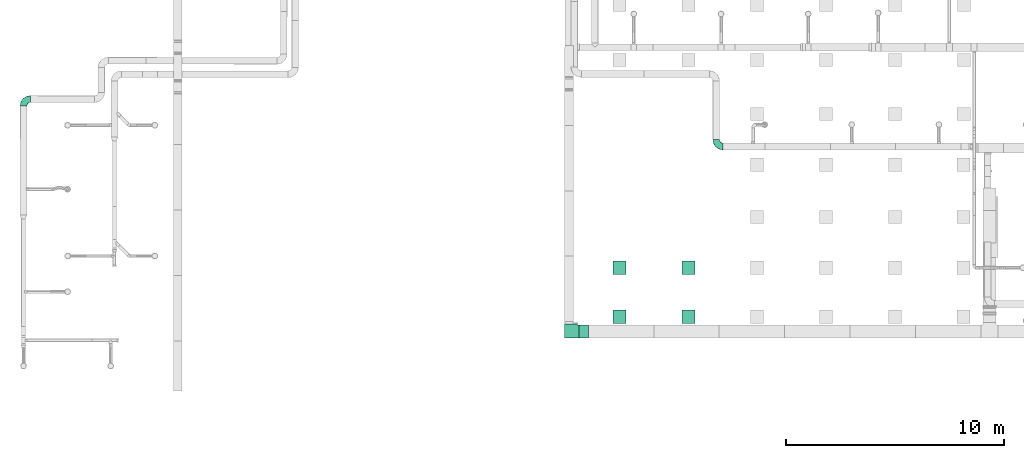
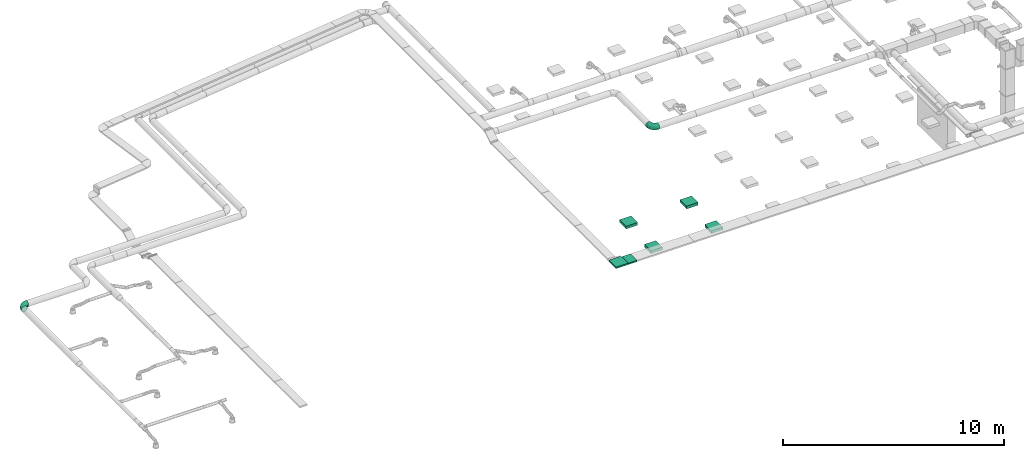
# One storey, part 11 of 119: 6 distribution elements, 2 flow fittings.
"""IFC2X3 building model written with IfcOpenShell, lengths in metres."""

from ifc_helpers import new_model, si_unit, direction, frame, frame_2d, origin, place, context, subcontext, project, spatial, rectangle, extrude, open_shell, surface_model, source, transform, mapped, element, save


model = new_model("IFC2X3")

# Units and contexts
model_context = context("Model", 3, precision=1e-05, world=origin(), true_north=direction((-0.4480736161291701, 0.8939966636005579)))
body_context = subcontext(model_context, "Body", "Model", "MODEL_VIEW")
ifc_project = project(units=[si_unit("LENGTHUNIT", "METRE"), si_unit("AREAUNIT", "SQUARE_METRE"), si_unit("VOLUMEUNIT", "CUBIC_METRE"), si_unit("PLANEANGLEUNIT", "RADIAN"), si_unit("THERMODYNAMICTEMPERATUREUNIT", "KELVIN"), si_unit("MASSUNIT", "GRAM", prefix="KILO"), si_unit("TIMEUNIT", "SECOND")], contexts=[model_context])

# Site, building, storey
site_placement = place(None, origin())
site = spatial("IfcSite", under=ifc_project, at=site_placement, Name="Site 1", CompositionType="ELEMENT")
building_placement = place(site_placement, origin())
building = spatial("IfcBuilding", under=site, at=building_placement, Name="Undefined", CompositionType="ELEMENT")
storey_placement = place(building_placement, frame((0.0, 0.0, 5.4)))
storey = spatial("IfcBuildingStorey", under=building, at=storey_placement, Name="R+1", CompositionType="ELEMENT", Elevation=5.4)

# Flow fittings
shared_shape_1 = source(origin(), body_context, "Body", "SurfaceModel", [
    surface_model("IfcFaceBasedSurfaceModel", [(0.12334725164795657, 0.0, -1.110223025e-15), (0.12264675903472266, 0.04110978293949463, -7.77156117e-16), (0.0007004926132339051, 0.041109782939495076, -7.77156117e-16), (0.0, 0.0, 0.0), (-0.1170905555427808, 0.04519480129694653, -0.031296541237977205), (-0.11914429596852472, 0.004131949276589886, -0.0316560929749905), (-0.22269912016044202, 0.05308645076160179, -0.0917568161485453), (-0.2259661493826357, 0.01211426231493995, -0.09281096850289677), (-0.3089281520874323, 0.06424692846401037, -0.1772605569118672), (-0.313185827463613, 0.023402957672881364, -0.17929702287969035), (-0.3699012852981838, 0.07791566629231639, -0.2819808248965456), (-0.3748594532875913, 0.03722872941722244, -0.285220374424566), (-0.4014633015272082, 0.09316116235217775, -0.39878110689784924), (-0.4067840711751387, 0.05264937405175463, -0.40336252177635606), (0.12059301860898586, 0.08079531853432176, -0.01055203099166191), (0.0027542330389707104, 0.08079531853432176, -0.01055203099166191), (-0.11106929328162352, 0.08474274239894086, -0.04079441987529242), (-0.21312067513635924, 0.09236857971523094, -0.09921822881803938), (-0.2964452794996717, 0.1031531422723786, -0.18184197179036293), (-0.3553646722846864, 0.11636147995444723, -0.2830349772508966), (-0.38586359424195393, 0.131093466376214, -0.39590110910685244), (0.11732598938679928, 0.11635210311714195, -0.03093698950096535), (0.006021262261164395, 0.1163521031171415, -0.030936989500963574), (-0.10149084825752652, 0.12008064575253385, -0.05950246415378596), (-0.19788356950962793, 0.12728363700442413, -0.11468672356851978), (-0.2765878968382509, 0.13747020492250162, -0.19272905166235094), (-0.3322402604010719, 0.14994615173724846, -0.28831099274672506), (-0.36104804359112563, 0.16386126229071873, -0.3949187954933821), (0.11306831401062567, 0.14535700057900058, -0.05976567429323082), (0.010278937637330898, 0.14535700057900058, -0.05976567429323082), (-0.08900797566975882, 0.14880029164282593, -0.08614575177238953), (-0.17802618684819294, 0.15545221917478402, -0.13710814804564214), (-0.25070925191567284, 0.16485946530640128, -0.2091798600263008), (-0.3021039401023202, 0.1763809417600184, -0.29744931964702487), (-0.32870778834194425, 0.189231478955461, -0.395901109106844), (0.10811014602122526, 0.16583337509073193, -0.09507345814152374), (0.015237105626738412, 0.16583337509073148, -0.09507345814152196), (-0.07447136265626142, 0.16894448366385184, -0.1189085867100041), (-0.15490177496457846, 0.17495468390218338, -0.16495451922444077), (-0.22057293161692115, 0.1834543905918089, -0.230073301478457), (-0.26700945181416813, 0.1938643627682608, -0.3098271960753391), (-0.2910467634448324, 0.20547517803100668, -0.3987811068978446), (0.10278937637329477, 0.17638579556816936, -0.13445417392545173), (0.020557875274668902, 0.17638579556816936, -0.1344541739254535), (-0.05887165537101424, 0.17914042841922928, -0.15555823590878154), (-0.13008622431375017, 0.18446197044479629, -0.1963281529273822), (-0.18823267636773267, 0.19198776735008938, -0.2539855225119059), (-0.22934842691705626, 0.20120494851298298, -0.324601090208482), (-0.2506315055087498, 0.21148537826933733, -0.40336252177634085), (0.09746860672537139, 0.17629513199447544, -0.17522409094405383), (0.025878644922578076, 0.17629513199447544, -0.17522409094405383), (-0.043271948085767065, 0.17869328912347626, -0.19359708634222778), (-0.10527067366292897, 0.18332617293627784, -0.22909098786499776), (-0.1558924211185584, 0.1898780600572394, -0.2792869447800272), (-0.1916874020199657, 0.19790245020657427, -0.3407641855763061), (-0.21021624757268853, 0.20685249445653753, -0.40933313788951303), (0.09251043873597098, 0.1655675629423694, -0.2146048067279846), (0.030836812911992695, 0.1655675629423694, -0.21460480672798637), (-0.028735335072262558, 0.1676335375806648, -0.2304328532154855), (-0.0821462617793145, 0.17162469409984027, -0.261010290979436), (-0.1257561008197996, 0.1772690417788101, -0.3042533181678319), (-0.1565929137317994, 0.18418192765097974, -0.35721499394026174), (-0.17255522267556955, 0.1918922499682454, -0.4162860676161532), (0.08825276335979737, 0.14493415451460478, -0.24991259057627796), (0.0350944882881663, 0.14493415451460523, -0.2499125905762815), (-0.01625246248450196, 0.1467148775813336, -0.2635552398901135), (-0.06228887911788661, 0.15015497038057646, -0.28991081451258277), (-0.09987745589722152, 0.15501999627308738, -0.32718322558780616), (-0.1264565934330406, 0.16097841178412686, -0.3728324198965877), (-0.14021496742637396, 0.16762416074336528, -0.4237474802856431), (0.08498573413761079, 0.11580103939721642, -0.27874127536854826), (0.03836151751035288, 0.11580103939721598, -0.2787412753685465), (-0.0066740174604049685, 0.11736288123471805, -0.2907070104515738), (-0.0470517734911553, 0.12038012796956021, -0.3138230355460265), (-0.08002007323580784, 0.12464715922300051, -0.34651403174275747), (-0.10333218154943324, 0.1298731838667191, -0.3865521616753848), (-0.11539941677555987, 0.13570205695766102, -0.43120889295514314), (0.08293199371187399, 0.08015359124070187, -0.2991262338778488), (0.04041525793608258, 0.08015359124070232, -0.2991262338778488), (-0.0006527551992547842, 0.08157783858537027, -0.31003781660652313), (-0.037473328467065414, 0.08432927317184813, -0.3311173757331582), (-0.06753720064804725, 0.08822038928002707, -0.36092837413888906), (-0.08879556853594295, 0.09298601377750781, -0.3974392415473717), (-0.0997997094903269, 0.09830137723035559, -0.438161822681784), (0.08223150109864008, 0.040421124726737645, -0.30967826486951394), (0.0411157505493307, 0.040421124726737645, -0.30967826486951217), (0.001400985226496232, 0.04179844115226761, -0.32023029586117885), (-0.03420629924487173, 0.044459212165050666, -0.34061525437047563), (-0.06327952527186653, 0.04822211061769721, -0.3694439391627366), (-0.08383740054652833, 0.052830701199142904, -0.4047517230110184), (-0.0944789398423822, 0.057970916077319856, -0.44413243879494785), (0.08293199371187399, -0.0006886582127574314, -0.3096782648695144), (0.04041525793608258, -0.0006886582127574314, -0.3096782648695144), (-0.0006527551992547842, 0.0007355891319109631, -0.3205898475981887), (-0.037473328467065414, 0.0034870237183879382, -0.34166940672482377), (-0.06753720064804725, 0.00737813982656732, -0.37148040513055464), (-0.08879556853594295, 0.012143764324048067, -0.4079912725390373), (-0.0997997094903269, 0.017459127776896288, -0.44871385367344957), (0.08498573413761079, -0.040374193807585, -0.29912623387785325), (0.03836151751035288, -0.040374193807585, -0.2991262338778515), (-0.0066740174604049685, -0.03881235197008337, -0.3110919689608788), (-0.0470517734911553, -0.03579510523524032, -0.33420799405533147), (-0.08002007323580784, -0.031528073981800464, -0.36689899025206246), (-0.10333218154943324, -0.02630204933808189, -0.4069371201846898), (-0.11539941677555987, -0.020473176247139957, -0.45159385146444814), (0.08825276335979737, -0.07593097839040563, -0.2787412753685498), (0.0350944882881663, -0.07593097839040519, -0.27874127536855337), (-0.01625246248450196, -0.0741502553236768, -0.29238392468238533), (-0.06228887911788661, -0.07071016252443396, -0.3187394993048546), (-0.09987745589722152, -0.06584513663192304, -0.356011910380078), (-0.1264565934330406, -0.05988672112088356, -0.40166110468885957), (-0.14021496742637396, -0.05324097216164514, -0.4525761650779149), (0.09251043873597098, -0.10493587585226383, -0.2499125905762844), (0.030836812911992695, -0.10493587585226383, -0.24991259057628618), (-0.028735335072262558, -0.10286990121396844, -0.2657406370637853), (-0.0821462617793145, -0.09887874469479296, -0.2963180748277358), (-0.1257561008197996, -0.09323439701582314, -0.3395611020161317), (-0.1565929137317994, -0.0863215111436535, -0.39252277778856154), (-0.17255522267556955, -0.07861118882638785, -0.451593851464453), (0.09746860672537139, -0.12541225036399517, -0.21460480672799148), (0.025878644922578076, -0.12541225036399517, -0.21460480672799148), (-0.043271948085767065, -0.12301409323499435, -0.23297780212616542), (-0.10527067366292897, -0.11838120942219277, -0.2684717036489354), (-0.1558924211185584, -0.11182932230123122, -0.31866766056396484), (-0.1916874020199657, -0.10380493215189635, -0.38014490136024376), (-0.21021624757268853, -0.09485488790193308, -0.4487138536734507), (0.10278937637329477, -0.13596467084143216, -0.1752240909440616), (0.020557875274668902, -0.13596467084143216, -0.17522409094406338), (-0.05887165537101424, -0.1332100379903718, -0.19632815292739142), (-0.13008622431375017, -0.12788849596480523, -0.23709806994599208), (-0.18823267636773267, -0.12036269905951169, -0.2947554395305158), (-0.22934842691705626, -0.11114551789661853, -0.36537100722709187), (-0.2506315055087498, -0.10086508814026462, -0.44413243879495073), (0.10811014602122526, -0.13587400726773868, -0.13445417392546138), (0.015237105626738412, -0.13587400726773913, -0.1344541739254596), (-0.07447136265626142, -0.13276289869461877, -0.15828930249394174), (-0.15490177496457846, -0.12675269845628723, -0.2043352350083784), (-0.22057293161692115, -0.11825299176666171, -0.26945401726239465), (-0.26700945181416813, -0.10784301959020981, -0.34920791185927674), (-0.2910467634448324, -0.09623220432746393, -0.4381618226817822), (0.11306831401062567, -0.12514643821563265, -0.09507345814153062), (0.010278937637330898, -0.12514643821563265, -0.09507345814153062), (-0.08900797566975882, -0.1217031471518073, -0.12145353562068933), (-0.17802618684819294, -0.11505121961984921, -0.17241593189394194), (-0.25070925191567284, -0.10564397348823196, -0.2444876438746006), (-0.3021039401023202, -0.09412249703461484, -0.33275710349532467), (-0.32870778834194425, -0.08127195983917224, -0.4312088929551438), (0.11732598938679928, -0.10451302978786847, -0.05976567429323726), (0.006021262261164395, -0.10451302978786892, -0.05976567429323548), (-0.10149084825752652, -0.10078448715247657, -0.08833114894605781), (-0.19788356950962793, -0.09358149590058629, -0.14351540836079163), (-0.2765878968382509, -0.0833949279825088, -0.2215577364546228), (-0.3322402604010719, -0.07091898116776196, -0.3171396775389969), (-0.36104804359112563, -0.057003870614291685, -0.42374748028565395), (0.12059301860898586, -0.07537991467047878, -0.030936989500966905), (0.0027542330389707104, -0.07537991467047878, -0.030936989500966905), (-0.11106929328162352, -0.07143249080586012, -0.06117937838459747), (-0.21312067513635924, -0.06380665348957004, -0.11960318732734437), (-0.2964452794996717, -0.05302209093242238, -0.20222693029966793), (-0.3553646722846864, -0.039813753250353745, -0.3034199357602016), (-0.38586359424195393, -0.025081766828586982, -0.41628606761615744), (0.12264675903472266, -0.039732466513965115, -0.010552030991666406), (0.0007004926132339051, -0.039732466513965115, -0.010552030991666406), (-0.1170905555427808, -0.03564744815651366, -0.04184857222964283), (-0.22269912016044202, -0.027755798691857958, -0.10230884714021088), (-0.3089281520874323, -0.016595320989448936, -0.18781258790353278), (-0.3699012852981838, -0.002926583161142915, -0.29253285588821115), (-0.4014633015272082, 0.012318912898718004, -0.4093331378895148)], [open_shell([[[0, 1, 2, 3]], [[3, 2, 4, 5]], [[5, 4, 6, 7]], [[7, 6, 8, 9]], [[9, 8, 10, 11]], [[11, 10, 12, 13]], [[1, 14, 15, 2]], [[2, 15, 16, 4]], [[4, 16, 17, 6]], [[6, 17, 18, 8]], [[8, 18, 19, 10]], [[10, 19, 20, 12]], [[14, 21, 22, 15]], [[15, 22, 23, 16]], [[16, 23, 24, 17]], [[17, 24, 25, 18]], [[18, 25, 26, 19]], [[19, 26, 27, 20]], [[21, 28, 29, 22]], [[22, 29, 30, 23]], [[23, 30, 31, 24]], [[24, 31, 32, 25]], [[25, 32, 33, 26]], [[26, 33, 34, 27]], [[28, 35, 36, 29]], [[29, 36, 37, 30]], [[30, 37, 38, 31]], [[31, 38, 39, 32]], [[32, 39, 40, 33]], [[33, 40, 41, 34]], [[35, 42, 43, 36]], [[36, 43, 44, 37]], [[37, 44, 45, 38]], [[38, 45, 46, 39]], [[39, 46, 47, 40]], [[40, 47, 48, 41]], [[42, 49, 50, 43]], [[43, 50, 51, 44]], [[44, 51, 52, 45]], [[45, 52, 53, 46]], [[46, 53, 54, 47]], [[47, 54, 55, 48]], [[49, 56, 57, 50]], [[50, 57, 58, 51]], [[51, 58, 59, 52]], [[52, 59, 60, 53]], [[53, 60, 61, 54]], [[54, 61, 62, 55]], [[56, 63, 64, 57]], [[57, 64, 65, 58]], [[58, 65, 66, 59]], [[59, 66, 67, 60]], [[60, 67, 68, 61]], [[61, 68, 69, 62]], [[63, 70, 71, 64]], [[64, 71, 72, 65]], [[65, 72, 73, 66]], [[66, 73, 74, 67]], [[67, 74, 75, 68]], [[68, 75, 76, 69]], [[70, 77, 78, 71]], [[71, 78, 79, 72]], [[72, 79, 80, 73]], [[73, 80, 81, 74]], [[74, 81, 82, 75]], [[75, 82, 83, 76]], [[77, 84, 85, 78]], [[78, 85, 86, 79]], [[79, 86, 87, 80]], [[80, 87, 88, 81]], [[81, 88, 89, 82]], [[82, 89, 90, 83]], [[84, 91, 92, 85]], [[85, 92, 93, 86]], [[86, 93, 94, 87]], [[87, 94, 95, 88]], [[88, 95, 96, 89]], [[89, 96, 97, 90]], [[91, 98, 99, 92]], [[92, 99, 100, 93]], [[93, 100, 101, 94]], [[94, 101, 102, 95]], [[95, 102, 103, 96]], [[96, 103, 104, 97]], [[98, 105, 106, 99]], [[99, 106, 107, 100]], [[100, 107, 108, 101]], [[101, 108, 109, 102]], [[102, 109, 110, 103]], [[103, 110, 111, 104]], [[105, 112, 113, 106]], [[106, 113, 114, 107]], [[107, 114, 115, 108]], [[108, 115, 116, 109]], [[109, 116, 117, 110]], [[110, 117, 118, 111]], [[112, 119, 120, 113]], [[113, 120, 121, 114]], [[114, 121, 122, 115]], [[115, 122, 123, 116]], [[116, 123, 124, 117]], [[117, 124, 125, 118]], [[119, 126, 127, 120]], [[120, 127, 128, 121]], [[121, 128, 129, 122]], [[122, 129, 130, 123]], [[123, 130, 131, 124]], [[124, 131, 132, 125]], [[126, 133, 134, 127]], [[127, 134, 135, 128]], [[128, 135, 136, 129]], [[129, 136, 137, 130]], [[130, 137, 138, 131]], [[131, 138, 139, 132]], [[133, 140, 141, 134]], [[134, 141, 142, 135]], [[135, 142, 143, 136]], [[136, 143, 144, 137]], [[137, 144, 145, 138]], [[138, 145, 146, 139]], [[140, 147, 148, 141]], [[141, 148, 149, 142]], [[142, 149, 150, 143]], [[143, 150, 151, 144]], [[144, 151, 152, 145]], [[145, 152, 153, 146]], [[147, 154, 155, 148]], [[148, 155, 156, 149]], [[149, 156, 157, 150]], [[150, 157, 158, 151]], [[151, 158, 159, 152]], [[152, 159, 160, 153]], [[154, 161, 162, 155]], [[155, 162, 163, 156]], [[156, 163, 164, 157]], [[157, 164, 165, 158]], [[158, 165, 166, 159]], [[159, 166, 167, 160]], [[161, 0, 3, 162]], [[162, 3, 5, 163]], [[163, 5, 7, 164]], [[164, 7, 9, 165]], [[165, 9, 11, 166]], [[166, 11, 13, 167]]])]),
])
flow_fitting_1_placement = place(storey_placement, origin())
element("IfcFlowFitting", 1, at=flow_fitting_1_placement, inside=storey, Name="Coude", ObjectType="Coude", context=body_context, shape_type="MappedRepresentation", body=[
    mapped(shared_shape_1, transform((34.26398537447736, 15.810894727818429, 2.775), x_axis=(0.9914448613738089, -0.13052619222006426, 0.0), y_axis=(0.016893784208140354, 0.12832103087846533, 0.9915887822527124), z_axis=(-0.1294283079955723, -0.9831056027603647, 0.12942830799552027))),
])
flow_fitting_2_placement = place(storey_placement, origin())
element("IfcFlowFitting", 2, at=flow_fitting_2_placement, inside=storey, Name="Coude", ObjectType="Coude", context=body_context, shape_type="MappedRepresentation", body=[
    mapped(shared_shape_1, transform((2.4879484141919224, 18.268273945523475, 2.7500000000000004), x_axis=(0.9916711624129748, 0.12879559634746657, -3.600317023e-15), y_axis=(0.016669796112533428, -0.12835032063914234, -0.9915887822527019), z_axis=(-0.12771226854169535, 0.9833300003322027, -0.1294283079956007))),
])

# Distribution elements
shared_shape_2 = source(origin(), body_context, "Body", "SurfaceModel", [
    surface_model("IfcFaceBasedSurfaceModel", [(0.0, 0.049999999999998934, 0.0), (0.0, 0.0, 0.0), (0.08000000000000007, 0.0, 5.82867088e-16), (0.08000000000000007, 0.04999999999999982, 0.0), (0.0, 0.0, 0.04999999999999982), (0.08000000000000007, 0.0, 0.04999999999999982), (0.0, -0.5999999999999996, 0.04999999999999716), (0.0, -0.5999999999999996, -0.6000000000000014), (0.08000000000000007, -0.5999999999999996, -0.6000000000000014), (0.08000000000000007, -0.5999999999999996, 0.04999999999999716), (0.0, 0.05000000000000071, -0.6000000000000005), (0.08000000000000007, 0.05000000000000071, -0.6000000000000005)], [open_shell([[[0, 1, 2, 3]], [[1, 4, 5, 2]], [[6, 7, 8, 9]], [[7, 10, 11, 8]], [[2, 5, 9]], [[2, 9, 8]], [[2, 8, 11]], [[2, 11, 3]], [[6, 4, 1]], [[7, 6, 1]], [[10, 7, 1]], [[0, 10, 1]]])]),
])
distribution_element_1_placement = place(storey_placement, origin())
element("IfcDistributionElement", 3, at=distribution_element_1_placement, inside=storey, Name="Angle", ObjectType="Angle", context=body_context, shape_type="MappedRepresentation", body=[
    mapped(shared_shape_2, transform((27.717247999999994, 7.764, 2.83), x_axis=(0.0, 0.0, -1.0), y_axis=(0.0, 1.0, 0.0), z_axis=(1.0, 0.0, 0.0))),
])
distribution_element_2_placement = place(storey_placement, origin())
element("IfcDistributionElement", 4, at=distribution_element_2_placement, inside=storey, Name="Chemin(s) de câbles", ObjectType="Chemin(s) de câbles", context=body_context, shape_type="SweptSolid", body=[
    extrude(rectangle(XDim=0.6, YDim=0.08, at=frame_2d((3.552713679e-15, 0.0), x_axis=(-1.0, 0.0))), frame((28.211000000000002, 7.464, 2.79), z_axis=(-1.0, 0.0, 0.0), x_axis=(0.0, -1.0, 0.0)), (0.0, 0.0, 1.0), 0.4437520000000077),
])
distribution_element_3_placement = place(storey_placement, origin())
element("IfcDistributionElement", 5, at=distribution_element_3_placement, inside=storey, Name="Decken-Rechteckleuchte mit Rahmen AP", ObjectType="Decken-Rechteckleuchte mit Rahmen AP", context=body_context, shape_type="SweptSolid", body=[
    extrude(rectangle(XDim=0.6000000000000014, YDim=0.6000000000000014, at=frame_2d((3.552713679e-15, 0.0), x_axis=(0.0, 1.0))), frame((29.636126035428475, 8.1375, 2.5500000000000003), z_axis=(0.0, 0.0, -1.0), x_axis=(1.0, 0.0, 0.0)), (0.0, 0.0, 1.0), 0.15),
])
distribution_element_4_placement = place(storey_placement, origin())
element("IfcDistributionElement", 6, at=distribution_element_4_placement, inside=storey, Name="Decken-Rechteckleuchte mit Rahmen AP", ObjectType="Decken-Rechteckleuchte mit Rahmen AP", context=body_context, shape_type="SweptSolid", body=[
    extrude(rectangle(XDim=0.6000000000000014, YDim=0.6000000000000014, at=frame_2d((3.552713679e-15, 0.0), x_axis=(0.0, 1.0))), frame((29.636126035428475, 10.3875, 2.5500000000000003), z_axis=(0.0, 0.0, -1.0), x_axis=(1.0, 0.0, 0.0)), (0.0, 0.0, 1.0), 0.15),
])
distribution_element_5_placement = place(storey_placement, origin())
element("IfcDistributionElement", 7, at=distribution_element_5_placement, inside=storey, Name="Decken-Rechteckleuchte mit Rahmen AP", ObjectType="Decken-Rechteckleuchte mit Rahmen AP", context=body_context, shape_type="SweptSolid", body=[
    extrude(rectangle(XDim=0.6000000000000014, YDim=0.6000000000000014, at=frame_2d((3.552713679e-15, 0.0), x_axis=(0.0, 1.0))), frame((32.79396833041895, 8.1375, 2.5500000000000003), z_axis=(0.0, 0.0, -1.0), x_axis=(1.0, 0.0, 0.0)), (0.0, 0.0, 1.0), 0.15),
])
distribution_element_6_placement = place(storey_placement, origin())
element("IfcDistributionElement", 8, at=distribution_element_6_placement, inside=storey, Name="Decken-Rechteckleuchte mit Rahmen AP", ObjectType="Decken-Rechteckleuchte mit Rahmen AP", context=body_context, shape_type="SweptSolid", body=[
    extrude(rectangle(XDim=0.6000000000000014, YDim=0.6000000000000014, at=frame_2d((3.552713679e-15, 0.0), x_axis=(0.0, 1.0))), frame((32.79396833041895, 10.3875, 2.5500000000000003), z_axis=(0.0, 0.0, -1.0), x_axis=(1.0, 0.0, 0.0)), (0.0, 0.0, 1.0), 0.15),
])

save(model, "model.ifc")
